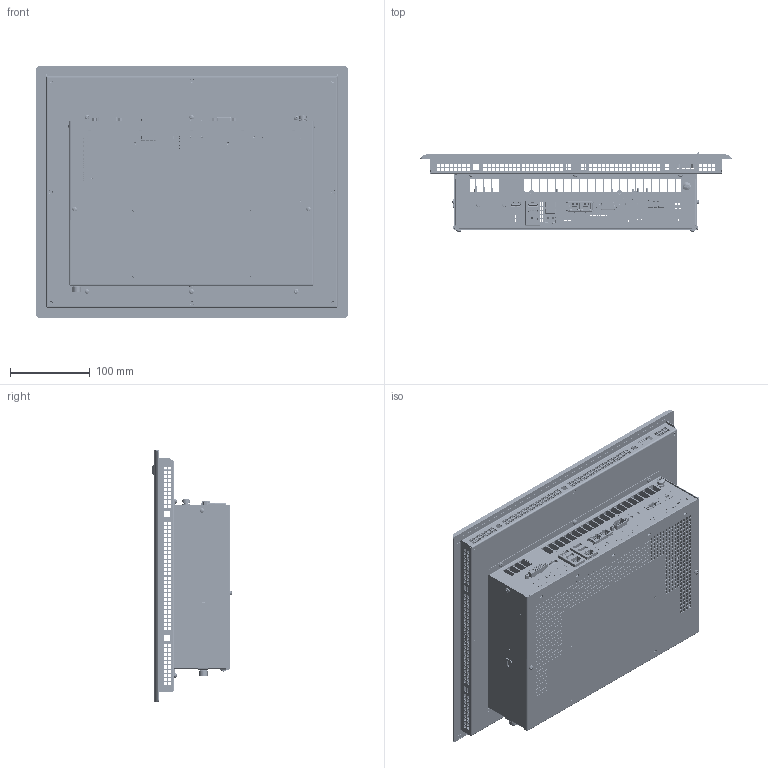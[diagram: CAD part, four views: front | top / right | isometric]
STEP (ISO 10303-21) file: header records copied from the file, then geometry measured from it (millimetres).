
FILE_DESCRIPTION (( 'STEP AP214' ), '1' );
FILE_NAME ('C6P34-Panel_150_Res_S0.STEP', '2019-09-19T13:57:06', ( '' ), ( '' ), 'SwSTEP 2.0', 'SolidWorks 2018', '' );
FILE_SCHEMA (( 'AUTOMOTIVE_DESIGN' ));
Length unit declared in the file: millimetre
Products named in the file (147): 7359_056; piazzuola_de800_di370; 66320016; 21614000; 65720030; 51524089; 52912002; 14300028; 62920012; 21509026; 57936014; 21409042; 23330039; 58702102_Default<A macchina>; 21410046; 65720029; 66320015; 66320001; 59302344; 21405029; 62920002; 69111028; 52536147; 21408088; 21410015; 48000024; 58502113; 59702265_Default<A macchina>; 21410052; 21404036; 52536147_Default<A macchina>; 7397_227; C6P34-Panel_150_Res_S0; 14300025; 7397_227_Depopolato; 21502089; 57902481; 21410056; 65720078; 62920009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
Assembly tree (105 placements, depth 4):
  7359_056
  piazzuola_de800_di370
  66320016
  piazzuola_de800_di370
  65720030
Bounding box: 390 x 99.83 x 315 mm (x, y, z)
Volume: 1358327.5 mm3; surface area: 1462219.2 mm2
Topology: 192 solids, 210 shells, 24983 faces, 70094 edges, 45940 vertices
Faces by surface type: plane 19188, cylinder 4389, bspline 767, cone 511, torus 108, sphere 20
Full cylindrical faces by diameter (mm): 0.3 x9, 0.434 x1, 0.6 x30, 0.65 x6, 0.7 x165, 0.8 x36, 0.85 x66, 0.9 x175, 0.95 x11, 1 x119, 1.1 x3, 1.2 x10, 1.32 x2, 1.35 x4, 1.4 x8, 1.5 x6, 1.6 x7, 1.7 x4, 1.8 x3, 1.9 x4, 1.95 x4, 2.05 x1, 2.3 x18, 2.4 x9, 2.5 x24, 2.6 x5, 2.8 x3, 2.874 x1, 3 x48, 3.15 x2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
Entity records: 742635 total; most frequent: CARTESIAN_POINT 158742, ORIENTED_EDGE 120412, DIRECTION 106888, EDGE_CURVE 60596, LINE 50736, VECTOR 50736, VERTEX_POINT 40337, EDGE_LOOP 28080
